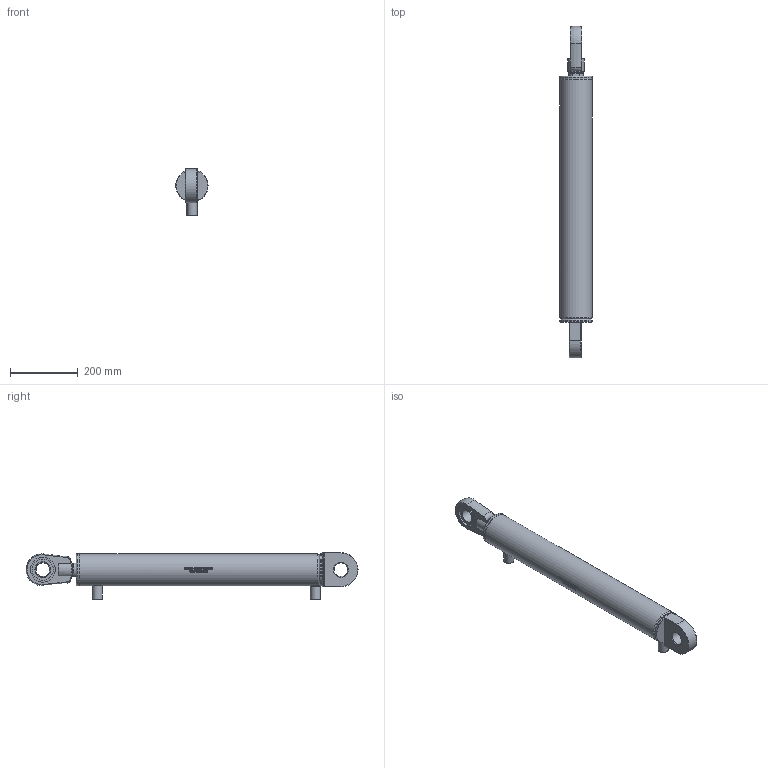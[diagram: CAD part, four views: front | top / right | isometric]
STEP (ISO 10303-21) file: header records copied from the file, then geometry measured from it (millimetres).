
FILE_DESCRIPTION(/* description */ (''),/* implementation_level */ '2;1');
FILE_NAME(/* name */ 'HC_A_80_45_600_AMB_WEB.step',/* time_stamp */ '2023-07-25T14:32:13+03:00',/* author */ (''),/* organization */ (''),/* preprocessor_version */ 'ST-DEVELOPER v20',/* originating_system */ 'Autodesk Translation Framework v12.9.0.99',/* authorisation */ '');
FILE_SCHEMA (('AUTOMOTIVE_DESIGN { 1 0 10303 214 3 1 1 }'));
Length unit declared in the file: millimetre
Products named in the file (16): HC_A_80_45_50_ÖAMB_WEB; Manşon_1_2; RMK_40_101; TAK_80_95; Bileşen1; RMV_40; dgihl_40_do; 45_K_MIL_WEB; Bileşen1_1; HCA_A_80_95_BORU; 80_100_Boru; TDK_80_45; TDK_80_45_1; K06-45X55_6X5_3X7; K22-045_55_10; KO-77X3
Assembly tree (16 placements, depth 3):
  HC_A_80_45_50_ÖAMB_WEB
    Manşon_1_2  x2
    RMK_40_101
    TAK_80_95
      Bileşen1
    RMV_40
      dgihl_40_do
    45_K_MIL_WEB
      Bileşen1_1
    HCA_A_80_95_BORU
      80_100_Boru
    TDK_80_45
      TDK_80_45_1
      K06-45X55_6X5_3X7
      K22-045_55_10
      KO-77X3
Bounding box: 95 x 978.16 x 138 mm (x, y, z)
Volume: 2624876.9 mm3; surface area: 580143.1 mm2
Topology: 11 solids, 11 shells, 759 faces, 1963 edges, 1288 vertices
Faces by surface type: bspline 367, plane 245, cylinder 76, cone 49, torus 13, sphere 9
Full cylindrical faces by diameter (mm): 8.526 x1, 10 x2, 19 x2, 30 x2, 32.822 x1, 33.376 x1, 34.85 x1, 40 x2, 45 x3, 45.571 x1, 46.6 x1, 47.6 x1, 49 x1, 54.429 x1, 55 x2, 55.6 x1, 62 x2, 73 x2, 77 x1, 80 x2, 81 x3, 83 x1, 83.022 x1, 84.822 x1, 87 x1, 95 x3
Entity records: 35129 total; most frequent: CARTESIAN_POINT 18619, ORIENTED_EDGE 3890, DIRECTION 2306, EDGE_CURVE 1945, VERTEX_POINT 1278, LINE 880, VECTOR 880, EDGE_LOOP 839
